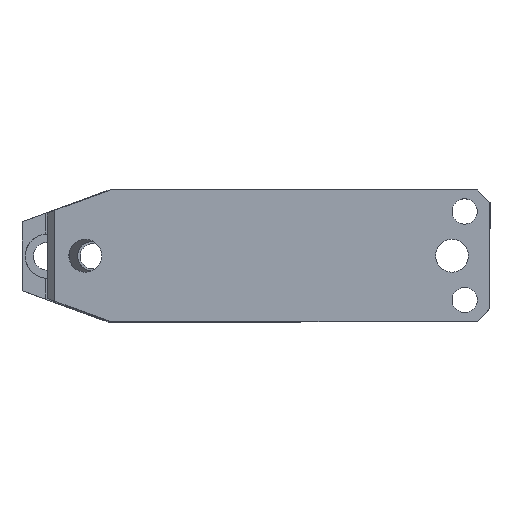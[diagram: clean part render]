
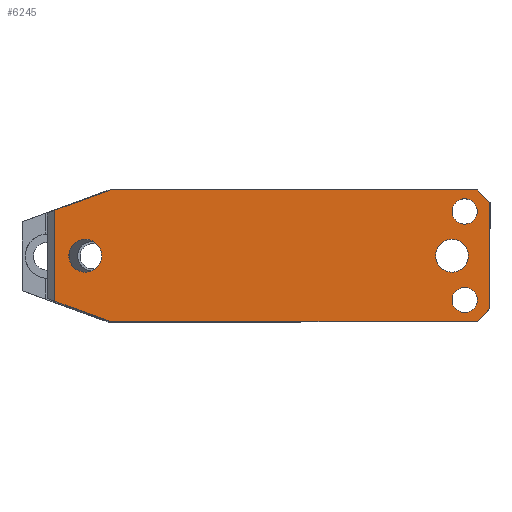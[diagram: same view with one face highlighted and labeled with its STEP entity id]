
A CAD part, top view. The second image highlights one B-rep face of the part: STEP entity #6245.
In plain terms, the highlighted planar face has unit normal (0, 0, 1).
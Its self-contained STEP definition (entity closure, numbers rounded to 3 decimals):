
#49 = ORIENTED_EDGE ( 'NONE', *, *, #615, .T. ) ;
#94 = CARTESIAN_POINT ( 'NONE',  ( 34., 26., 125. ) ) ;
#96 = EDGE_CURVE ( 'NONE', #6633, #5402, #9183, .T. ) ;
#179 = CARTESIAN_POINT ( 'NONE',  ( 174., 17.5, 125. ) ) ;
#198 = VERTEX_POINT ( 'NONE', #10685 ) ;
#233 = CARTESIAN_POINT ( 'NONE',  ( 162.5, 0., 125. ) ) ;
#375 = DIRECTION ( 'NONE',  ( -1., 0., 0. ) ) ;
#407 = DIRECTION ( 'NONE',  ( 0., -1., 0. ) ) ;
#446 = CARTESIAN_POINT ( 'NONE',  ( 12., 26., 125. ) ) ;
#512 = DIRECTION ( 'NONE',  ( 0., 0., -1. ) ) ;
#552 = ORIENTED_EDGE ( 'NONE', *, *, #96, .T. ) ;
#598 = VECTOR ( 'NONE', #407, 1000. ) ;
#615 = EDGE_CURVE ( 'NONE', #9334, #8522, #4208, .T. ) ;
#646 = AXIS2_PLACEMENT_3D ( 'NONE', #179, #6421, #1090 ) ;
#823 = VECTOR ( 'NONE', #10967, 1000. ) ;
#978 = AXIS2_PLACEMENT_3D ( 'NONE', #1061, #3754, #9865 ) ;
#1026 = EDGE_CURVE ( 'NONE', #9703, #3235, #4741, .T. ) ;
#1061 = CARTESIAN_POINT ( 'NONE',  ( 9., 26., 125. ) ) ;
#1090 = DIRECTION ( 'NONE',  ( -1., 0., 0. ) ) ;
#1332 = DIRECTION ( 'NONE',  ( 0., 0., -1. ) ) ;
#1393 = CIRCLE ( 'NONE', #9417, 6.5 ) ;
#1442 = EDGE_LOOP ( 'NONE', ( #9211, #552, #1750, #8971, #11057, #4638, #7578, #3530 ) ) ;
#1546 = DIRECTION ( 'NONE',  ( 0., 0., -1. ) ) ;
#1559 = CARTESIAN_POINT ( 'NONE',  ( 184., 26., 125. ) ) ;
#1750 = ORIENTED_EDGE ( 'NONE', *, *, #9457, .F. ) ;
#1792 = LINE ( 'NONE', #11408, #10871 ) ;
#1814 = ORIENTED_EDGE ( 'NONE', *, *, #7114, .T. ) ;
#1870 = VERTEX_POINT ( 'NONE', #2921 ) ;
#1915 = VERTEX_POINT ( 'NONE', #8244 ) ;
#1920 = CARTESIAN_POINT ( 'NONE',  ( 17.5, 0., 125. ) ) ;
#2063 = CARTESIAN_POINT ( 'NONE',  ( 174., -17.5, 125. ) ) ;
#2203 = VERTEX_POINT ( 'NONE', #2543 ) ;
#2374 = CIRCLE ( 'NONE', #11353, 5. ) ;
#2523 = CARTESIAN_POINT ( 'NONE',  ( 179., 17.5, 125. ) ) ;
#2543 = CARTESIAN_POINT ( 'NONE',  ( 184., 21., 125. ) ) ;
#2636 = EDGE_CURVE ( 'NONE', #8130, #2203, #4398, .T. ) ;
#2901 = EDGE_CURVE ( 'NONE', #1915, #11282, #1792, .T. ) ;
#2921 = CARTESIAN_POINT ( 'NONE',  ( 179., -17.5, 125. ) ) ;
#2951 = DIRECTION ( 'NONE',  ( -1., 0., 0. ) ) ;
#3101 = VERTEX_POINT ( 'NONE', #6467 ) ;
#3235 = VERTEX_POINT ( 'NONE', #2523 ) ;
#3523 = DIRECTION ( 'NONE',  ( 1., 0., 0. ) ) ;
#3530 = ORIENTED_EDGE ( 'NONE', *, *, #8980, .F. ) ;
#3656 = EDGE_CURVE ( 'NONE', #3101, #11282, #8126, .T. ) ;
#3714 = PLANE ( 'NONE',  #978 ) ;
#3722 = DIRECTION ( 'NONE',  ( 0.94, 0.342, 0. ) ) ;
#3754 = DIRECTION ( 'NONE',  ( 0., 0., -1. ) ) ;
#3911 = FACE_OUTER_BOUND ( 'NONE', #1442, .T. ) ;
#3940 = LINE ( 'NONE', #10741, #8355 ) ;
#4019 = EDGE_CURVE ( 'NONE', #1870, #10222, #7148, .T. ) ;
#4123 = CARTESIAN_POINT ( 'NONE',  ( 175.5, 0., 125. ) ) ;
#4143 = DIRECTION ( 'NONE',  ( 1., 0., 0. ) ) ;
#4163 = CIRCLE ( 'NONE', #4472, 6.5 ) ;
#4186 = FACE_BOUND ( 'NONE', #6725, .T. ) ;
#4208 = CIRCLE ( 'NONE', #6463, 6.5 ) ;
#4398 = LINE ( 'NONE', #10109, #6759 ) ;
#4412 = AXIS2_PLACEMENT_3D ( 'NONE', #4955, #11092, #5872 ) ;
#4444 = DIRECTION ( 'NONE',  ( 0., 0., -1. ) ) ;
#4463 = EDGE_CURVE ( 'NONE', #198, #10136, #9982, .T. ) ;
#4472 = AXIS2_PLACEMENT_3D ( 'NONE', #6849, #1546, #7732 ) ;
#4638 = ORIENTED_EDGE ( 'NONE', *, *, #8615, .F. ) ;
#4741 = CIRCLE ( 'NONE', #646, 5. ) ;
#4785 = EDGE_LOOP ( 'NONE', ( #49, #6485 ) ) ;
#4878 = DIRECTION ( 'NONE',  ( 0.707, -0.707, 0. ) ) ;
#4895 = VERTEX_POINT ( 'NONE', #94 ) ;
#4955 = CARTESIAN_POINT ( 'NONE',  ( 174., -17.5, 125. ) ) ;
#4986 = VECTOR ( 'NONE', #6012, 1000. ) ;
#5022 = CARTESIAN_POINT ( 'NONE',  ( 179., -26., 125. ) ) ;
#5223 = CARTESIAN_POINT ( 'NONE',  ( 169., 17.5, 125. ) ) ;
#5402 = VERTEX_POINT ( 'NONE', #11410 ) ;
#5554 = EDGE_CURVE ( 'NONE', #6633, #4895, #3940, .T. ) ;
#5612 = CARTESIAN_POINT ( 'NONE',  ( 169., -17.5, 125. ) ) ;
#5712 = CIRCLE ( 'NONE', #4412, 5. ) ;
#5724 = DIRECTION ( 'NONE',  ( 0., 0., -1. ) ) ;
#5810 = VECTOR ( 'NONE', #7659, 1000. ) ;
#5831 = LINE ( 'NONE', #7643, #7865 ) ;
#5870 = CARTESIAN_POINT ( 'NONE',  ( 174., 17.5, 125. ) ) ;
#5872 = DIRECTION ( 'NONE',  ( -1., 0., 0. ) ) ;
#5912 = ORIENTED_EDGE ( 'NONE', *, *, #4463, .T. ) ;
#6012 = DIRECTION ( 'NONE',  ( 0., -1., 0. ) ) ;
#6198 = CARTESIAN_POINT ( 'NONE',  ( 12., 17.993, 125. ) ) ;
#6245 = ADVANCED_FACE ( 'NONE', ( #8608, #11203, #4186, #6289, #3911 ), #3714, .F. ) ;
#6289 = FACE_BOUND ( 'NONE', #4785, .T. ) ;
#6291 = CARTESIAN_POINT ( 'NONE',  ( 179., -26., 125. ) ) ;
#6421 = DIRECTION ( 'NONE',  ( 0., 0., -1. ) ) ;
#6463 = AXIS2_PLACEMENT_3D ( 'NONE', #6653, #1332, #7516 ) ;
#6467 = CARTESIAN_POINT ( 'NONE',  ( 184., -21., 125. ) ) ;
#6485 = ORIENTED_EDGE ( 'NONE', *, *, #6954, .T. ) ;
#6633 = VERTEX_POINT ( 'NONE', #6198 ) ;
#6653 = CARTESIAN_POINT ( 'NONE',  ( 169., 0., 125. ) ) ;
#6725 = EDGE_LOOP ( 'NONE', ( #1814, #5912 ) ) ;
#6729 = DIRECTION ( 'NONE',  ( -1., 0., 0. ) ) ;
#6759 = VECTOR ( 'NONE', #4878, 1000. ) ;
#6849 = CARTESIAN_POINT ( 'NONE',  ( 24., 0., 125. ) ) ;
#6954 = EDGE_CURVE ( 'NONE', #8522, #9334, #1393, .T. ) ;
#7114 = EDGE_CURVE ( 'NONE', #10136, #198, #4163, .T. ) ;
#7148 = CIRCLE ( 'NONE', #9266, 5. ) ;
#7516 = DIRECTION ( 'NONE',  ( -1., 0., 0. ) ) ;
#7578 = ORIENTED_EDGE ( 'NONE', *, *, #2636, .F. ) ;
#7643 = CARTESIAN_POINT ( 'NONE',  ( 9., 26., 125. ) ) ;
#7659 = DIRECTION ( 'NONE',  ( -0.707, -0.707, 0. ) ) ;
#7732 = DIRECTION ( 'NONE',  ( -1., 0., 0. ) ) ;
#7821 = EDGE_LOOP ( 'NONE', ( #10130, #10734 ) ) ;
#7865 = VECTOR ( 'NONE', #4143, 1000. ) ;
#7915 = EDGE_CURVE ( 'NONE', #10222, #1870, #5712, .T. ) ;
#7916 = CARTESIAN_POINT ( 'NONE',  ( 179., 26., 125. ) ) ;
#8126 = LINE ( 'NONE', #5022, #5810 ) ;
#8130 = VERTEX_POINT ( 'NONE', #7916 ) ;
#8238 = DIRECTION ( 'NONE',  ( 0., 0., -1. ) ) ;
#8244 = CARTESIAN_POINT ( 'NONE',  ( 34., -26., 125. ) ) ;
#8247 = AXIS2_PLACEMENT_3D ( 'NONE', #9699, #4444, #10590 ) ;
#8355 = VECTOR ( 'NONE', #3722, 1000. ) ;
#8522 = VERTEX_POINT ( 'NONE', #4123 ) ;
#8608 = FACE_BOUND ( 'NONE', #7821, .T. ) ;
#8615 = EDGE_CURVE ( 'NONE', #2203, #3101, #9634, .T. ) ;
#8771 = ORIENTED_EDGE ( 'NONE', *, *, #1026, .T. ) ;
#8971 = ORIENTED_EDGE ( 'NONE', *, *, #2901, .T. ) ;
#8980 = EDGE_CURVE ( 'NONE', #4895, #8130, #5831, .T. ) ;
#9183 = LINE ( 'NONE', #446, #598 ) ;
#9211 = ORIENTED_EDGE ( 'NONE', *, *, #5554, .F. ) ;
#9266 = AXIS2_PLACEMENT_3D ( 'NONE', #2063, #8238, #2951 ) ;
#9334 = VERTEX_POINT ( 'NONE', #233 ) ;
#9417 = AXIS2_PLACEMENT_3D ( 'NONE', #10944, #5724, #375 ) ;
#9457 = EDGE_CURVE ( 'NONE', #1915, #5402, #10190, .T. ) ;
#9534 = EDGE_CURVE ( 'NONE', #3235, #9703, #2374, .T. ) ;
#9634 = LINE ( 'NONE', #1559, #4986 ) ;
#9699 = CARTESIAN_POINT ( 'NONE',  ( 24., 0., 125. ) ) ;
#9703 = VERTEX_POINT ( 'NONE', #5223 ) ;
#9865 = DIRECTION ( 'NONE',  ( -1., 0., 0. ) ) ;
#9982 = CIRCLE ( 'NONE', #8247, 6.5 ) ;
#10064 = CARTESIAN_POINT ( 'NONE',  ( 9., -16.901, 125. ) ) ;
#10109 = CARTESIAN_POINT ( 'NONE',  ( 179., 26., 125. ) ) ;
#10130 = ORIENTED_EDGE ( 'NONE', *, *, #7915, .T. ) ;
#10136 = VERTEX_POINT ( 'NONE', #1920 ) ;
#10190 = LINE ( 'NONE', #10064, #823 ) ;
#10222 = VERTEX_POINT ( 'NONE', #5612 ) ;
#10590 = DIRECTION ( 'NONE',  ( -1., 0., 0. ) ) ;
#10685 = CARTESIAN_POINT ( 'NONE',  ( 30.5, 0., 125. ) ) ;
#10734 = ORIENTED_EDGE ( 'NONE', *, *, #4019, .T. ) ;
#10741 = CARTESIAN_POINT ( 'NONE',  ( 9., 16.901, 125. ) ) ;
#10821 = EDGE_LOOP ( 'NONE', ( #8771, #11240 ) ) ;
#10871 = VECTOR ( 'NONE', #3523, 1000. ) ;
#10944 = CARTESIAN_POINT ( 'NONE',  ( 169., 0., 125. ) ) ;
#10967 = DIRECTION ( 'NONE',  ( -0.94, 0.342, 0. ) ) ;
#11057 = ORIENTED_EDGE ( 'NONE', *, *, #3656, .F. ) ;
#11092 = DIRECTION ( 'NONE',  ( 0., 0., -1. ) ) ;
#11203 = FACE_BOUND ( 'NONE', #10821, .T. ) ;
#11240 = ORIENTED_EDGE ( 'NONE', *, *, #9534, .T. ) ;
#11282 = VERTEX_POINT ( 'NONE', #6291 ) ;
#11353 = AXIS2_PLACEMENT_3D ( 'NONE', #5870, #512, #6729 ) ;
#11408 = CARTESIAN_POINT ( 'NONE',  ( 9., -26., 125. ) ) ;
#11410 = CARTESIAN_POINT ( 'NONE',  ( 12., -17.993, 125. ) ) ;
